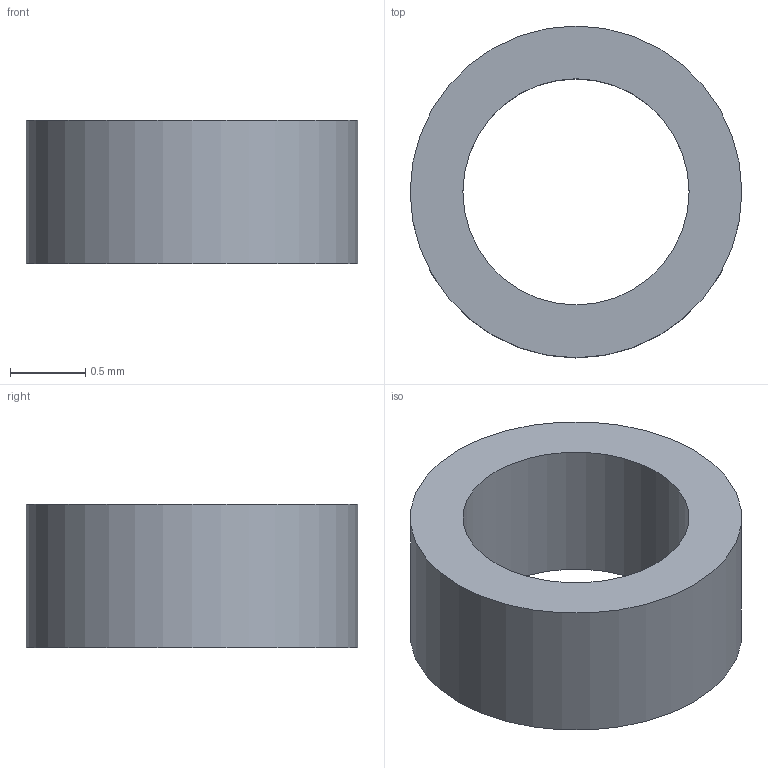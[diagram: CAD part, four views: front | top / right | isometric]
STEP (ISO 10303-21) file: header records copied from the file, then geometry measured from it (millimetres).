
FILE_DESCRIPTION(('Open CASCADE Model'),'2;1');
FILE_NAME('C27_UC1_Microphone_Acoustic_Seal_FREE_STATE', '2026-09-09T20:28:31',('Author'),('Open CASCADE'), 'Open CASCADE STEP processor 7.9','build123d','Unknown');
FILE_SCHEMA(('AUTOMOTIVE_DESIGN { 1 0 10303 214 1 1 1 1 }'));
Length unit declared in the file: millimetre
Products named in the file (1): C27_UC1_Microphone_Acoustic_Seal_FREE_STATE
Bounding box: 2.2 x 2.2 x 0.95 mm (x, y, z)
Volume: 1.9 mm3; surface area: 15.1 mm2
Topology: 1 solids, 1 shells, 4 faces, 6 edges, 4 vertices
Faces by surface type: cylinder 2, plane 2
Full cylindrical faces by diameter (mm): 1.5 x1, 2.2 x1
Entity records: 186 total; most frequent: DIRECTION 32, CARTESIAN_POINT 27, ORIENTED_EDGE 12, PCURVE 12, DEFINITIONAL_REPRESENTATION 12, LINE 10, VECTOR 10, AXIS2_PLACEMENT_3D 9
